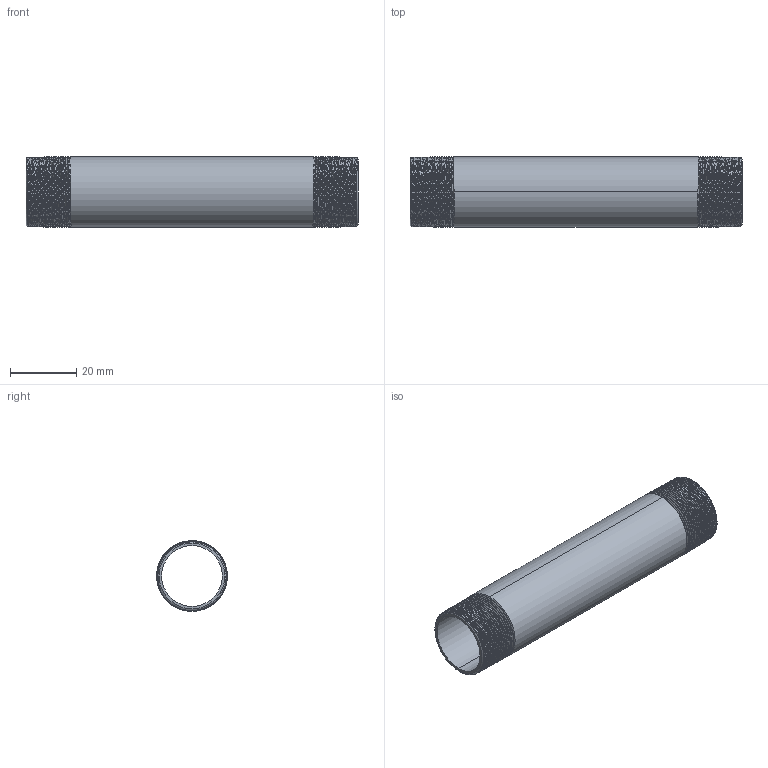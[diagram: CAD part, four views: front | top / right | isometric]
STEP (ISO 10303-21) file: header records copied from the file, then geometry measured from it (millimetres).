
FILE_DESCRIPTION (( 'STEP AP203' ), '1' );
FILE_NAME ('3D_R210_1-2x100_17185130.STEP', '2024-08-16T10:38:26', ( '' ), ( '' ), 'SwSTEP 2.0', 'SolidWorks 2024', '' );
FILE_SCHEMA (( 'CONFIG_CONTROL_DESIGN' ));
Length unit declared in the file: millimetre
Products named in the file (1): 3D_R210_1-2x100_17185130
Bounding box: 100 x 21.28 x 21.3 mm (x, y, z)
Volume: 8953.4 mm3; surface area: 13348.9 mm2
Topology: 1 solids, 1 shells, 94 faces, 268 edges, 176 vertices
Faces by surface type: cone 80, bspline 6, cylinder 4, plane 4
Entity records: 14219 total; most frequent: CARTESIAN_POINT 12053, ORIENTED_EDGE 536, DIRECTION 286, EDGE_CURVE 268, VERTEX_POINT 176, B_SPLINE_CURVE_WITH_KNOTS 164, AXIS2_PLACEMENT_3D 101, EDGE_LOOP 96
